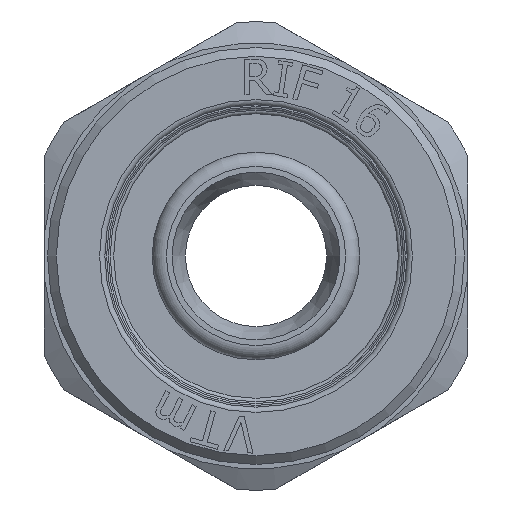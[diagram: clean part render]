
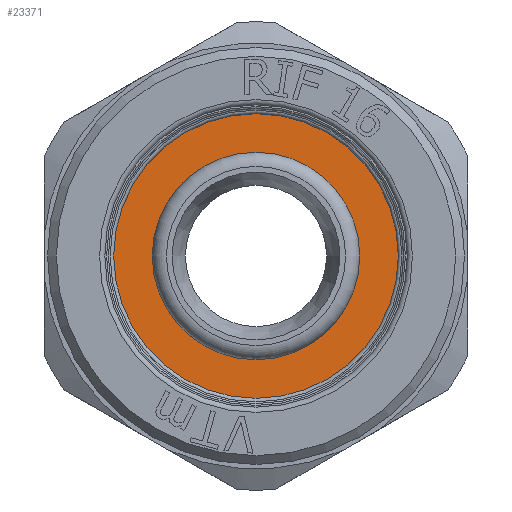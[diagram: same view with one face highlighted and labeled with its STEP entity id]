
A CAD part, left-side view. The second image highlights one B-rep face of the part: STEP entity #23371.
In plain terms, the highlighted planar face has unit normal (-1, 0, 0).
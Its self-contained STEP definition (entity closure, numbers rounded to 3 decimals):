
#304=FACE_BOUND('',#4607,.T.);
#658=PLANE('',#24587);
#1932=CIRCLE('',#24585,5.875);
#1933=CIRCLE('',#24586,5.875);
#1934=CIRCLE('',#24588,8.1);
#1935=CIRCLE('',#24589,8.1);
#3221=FACE_OUTER_BOUND('',#4606,.T.);
#4606=EDGE_LOOP('',(#21894,#21895));
#4607=EDGE_LOOP('',(#21896,#21897));
#11303=VERTEX_POINT('',#51900);
#11304=VERTEX_POINT('',#51902);
#11305=VERTEX_POINT('',#51906);
#11306=VERTEX_POINT('',#51907);
#14840=EDGE_CURVE('',#11303,#11304,#1932,.T.);
#14841=EDGE_CURVE('',#11304,#11303,#1933,.T.);
#14842=EDGE_CURVE('',#11305,#11306,#1934,.T.);
#14843=EDGE_CURVE('',#11306,#11305,#1935,.T.);
#21894=ORIENTED_EDGE('',*,*,#14842,.T.);
#21895=ORIENTED_EDGE('',*,*,#14843,.T.);
#21896=ORIENTED_EDGE('',*,*,#14841,.F.);
#21897=ORIENTED_EDGE('',*,*,#14840,.F.);
#23371=ADVANCED_FACE('',(#3221,#304),#658,.T.);
#24585=AXIS2_PLACEMENT_3D('',#51903,#28443,#28444);
#24586=AXIS2_PLACEMENT_3D('',#51904,#28445,#28446);
#24587=AXIS2_PLACEMENT_3D('',#51905,#28447,#28448);
#24588=AXIS2_PLACEMENT_3D('',#51908,#28449,#28450);
#24589=AXIS2_PLACEMENT_3D('',#51909,#28451,#28452);
#28443=DIRECTION('center_axis',(-1.,0.,0.));
#28444=DIRECTION('ref_axis',(0.,0.,1.));
#28445=DIRECTION('center_axis',(-1.,0.,0.));
#28446=DIRECTION('ref_axis',(0.,0.,1.));
#28447=DIRECTION('center_axis',(-1.,0.,0.));
#28448=DIRECTION('ref_axis',(0.,0.,1.));
#28449=DIRECTION('center_axis',(-1.,0.,0.));
#28450=DIRECTION('ref_axis',(0.,0.,1.));
#28451=DIRECTION('center_axis',(-1.,0.,0.));
#28452=DIRECTION('ref_axis',(0.,0.,1.));
#51900=CARTESIAN_POINT('',(-7.,5.875,0.));
#51902=CARTESIAN_POINT('',(-7.,-5.875,0.));
#51903=CARTESIAN_POINT('Origin',(-7.,0.,0.));
#51904=CARTESIAN_POINT('Origin',(-7.,0.,0.));
#51905=CARTESIAN_POINT('Origin',(-7.,-5.875,0.));
#51906=CARTESIAN_POINT('',(-7.,-8.1,0.));
#51907=CARTESIAN_POINT('',(-7.,8.1,0.));
#51908=CARTESIAN_POINT('Origin',(-7.,0.,0.));
#51909=CARTESIAN_POINT('Origin',(-7.,0.,0.));
